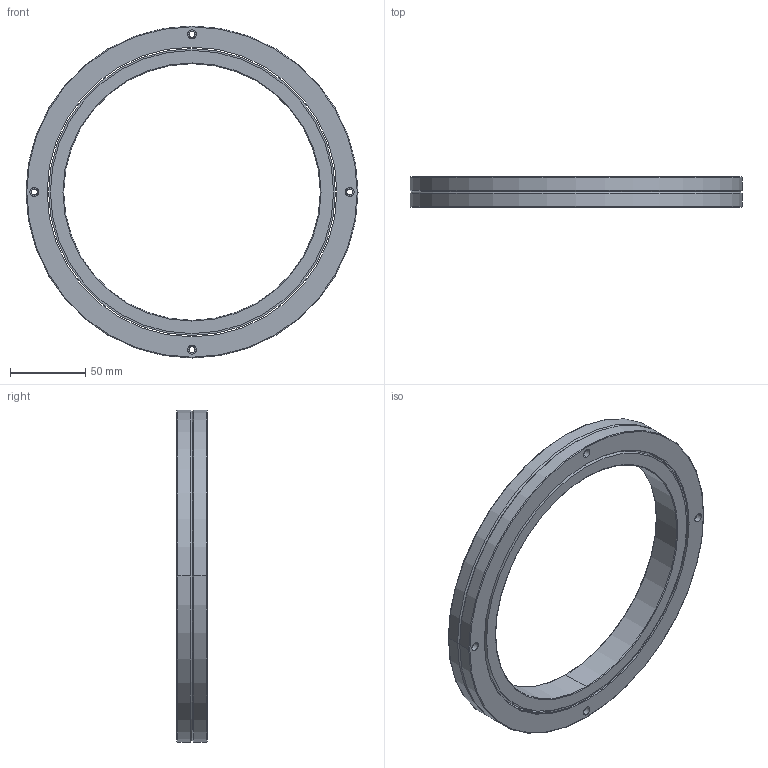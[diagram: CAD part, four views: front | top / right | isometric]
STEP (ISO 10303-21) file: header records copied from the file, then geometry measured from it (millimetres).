
FILE_DESCRIPTION((''),'2;1');
FILE_NAME('RB17020','2015-08-27T',('Administrator'),(''),'PRO/ENGINEER BY PARAMETRIC TECHNOLOGY CORPORATION, 2010180','PRO/ENGINEER BY PARAMETRIC TECHNOLOGY CORPORATION, 2010180','');
FILE_SCHEMA(('AUTOMOTIVE_DESIGN_CC2 { 1 2 10303 214 -1 1 5 2 }'));
Length unit declared in the file: millimetre
Products named in the file (1): RB17020
Bounding box: 220 x 20 x 220 mm (x, y, z)
Volume: 250711.8 mm3; surface area: 90532.7 mm2
Topology: 2 solids, 2 shells, 88 faces, 184 edges, 114 vertices
Faces by surface type: cylinder 50, plane 18, cone 12, torus 8
Entity records: 2497 total; most frequent: DIRECTION 482, CARTESIAN_POINT 386, ORIENTED_EDGE 368, AXIS2_PLACEMENT_3D 210, EDGE_CURVE 184, CIRCLE 122, VERTEX_POINT 114, EDGE_LOOP 114
